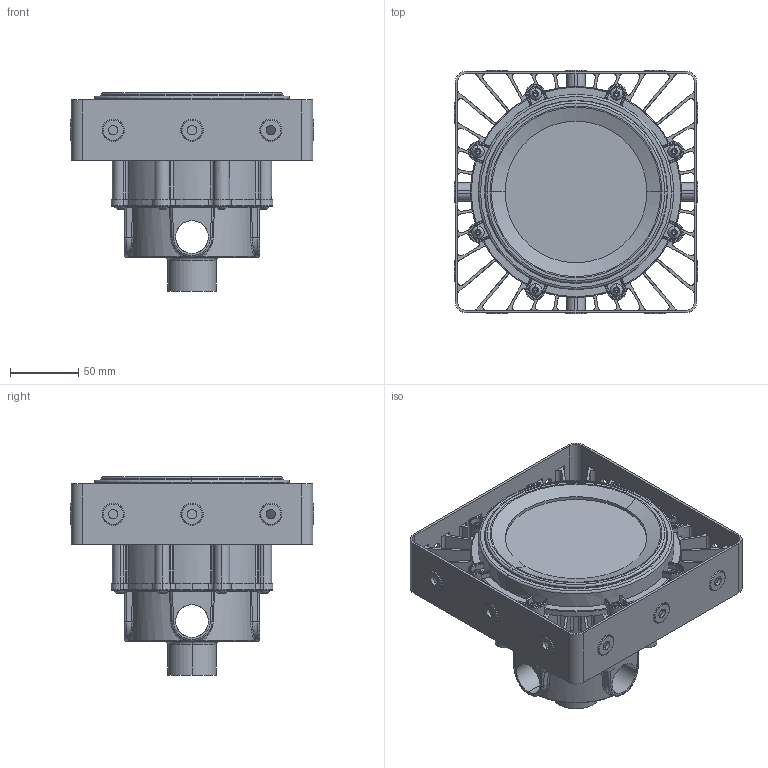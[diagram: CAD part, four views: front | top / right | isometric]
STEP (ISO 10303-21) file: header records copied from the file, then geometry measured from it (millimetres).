
FILE_DESCRIPTION (( 'STEP AP214' ), '1' );
FILE_NAME ('EPL-HB-50W-LED.STEP', '2016-04-14T21:17:47', ( '' ), ( '' ), 'SwSTEP 2.0', 'SolidWorks 2015', '' );
FILE_SCHEMA (( 'AUTOMOTIVE_DESIGN' ));
Length unit declared in the file: inch
Products named in the file (4): socket button head cap screw_ai_SBHCSCREW 0.19-24x0.25-HX-N; EPL-HB-50W-LED Lens; EPL-HB-50W-LED Body; EPL-HB-50W-LED
Assembly tree (21 placements, depth 2):
  EPL-HB-50W-LED
    EPL-HB-50W-LED Body
    EPL-HB-50W-LED Lens  x4
    socket button head cap screw_ai_SBHCSCREW 0.19-24x0.25-HX-N  x16
Bounding box: 178.82 x 178.82 x 145.39 mm (x, y, z)
Volume: 1223339.7 mm3; surface area: 306400.8 mm2
Topology: 27 solids, 27 shells, 1627 faces, 4270 edges, 2665 vertices
Faces by surface type: cylinder 666, plane 630, torus 153, cone 82, bspline 48, sphere 48
Entity records: 41897 total; most frequent: CARTESIAN_POINT 9685, DIRECTION 7170, ORIENTED_EDGE 6680, EDGE_CURVE 3340, AXIS2_PLACEMENT_3D 2830, VERTEX_POINT 2125, CIRCLE 1644, VECTOR 1510
